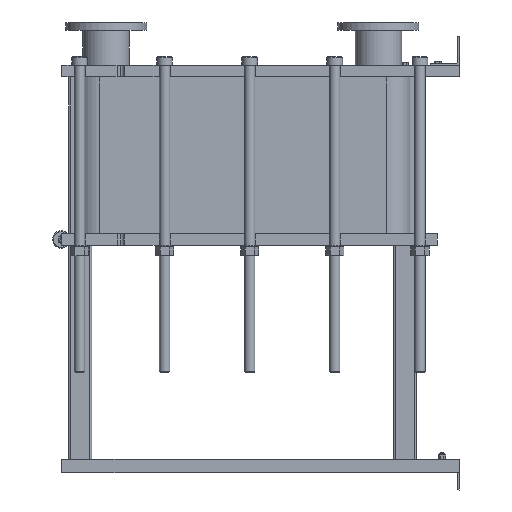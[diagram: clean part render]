
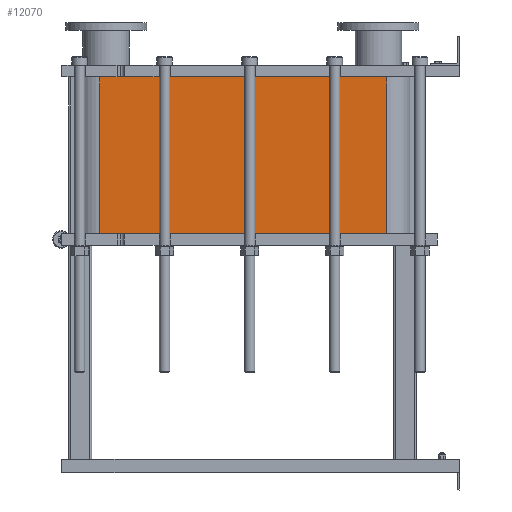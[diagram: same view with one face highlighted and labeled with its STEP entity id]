
A CAD part, left-side view. The second image highlights one B-rep face of the part: STEP entity #12070.
In plain terms, the highlighted planar face has unit normal (-1, 0, 0).
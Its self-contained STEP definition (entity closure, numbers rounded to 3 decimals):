
#1064=LINE('',#21140,#2164);
#1065=LINE('',#21144,#2165);
#1066=LINE('',#21146,#2166);
#1067=LINE('',#21147,#2167);
#2164=VECTOR('',#15790,10.);
#2165=VECTOR('',#15795,10.);
#2166=VECTOR('',#15796,10.);
#2167=VECTOR('',#15797,10.);
#3304=FACE_OUTER_BOUND('',#4091,.T.);
#4091=EDGE_LOOP('',(#9793,#9794,#9795,#9796));
#5677=VERTEX_POINT('',#21137);
#5678=VERTEX_POINT('',#21139);
#5679=VERTEX_POINT('',#21143);
#5680=VERTEX_POINT('',#21145);
#7118=EDGE_CURVE('',#5678,#5677,#1064,.T.);
#7120=EDGE_CURVE('',#5677,#5679,#1065,.T.);
#7121=EDGE_CURVE('',#5680,#5679,#1066,.T.);
#7122=EDGE_CURVE('',#5680,#5678,#1067,.T.);
#9793=ORIENTED_EDGE('',*,*,#7120,.T.);
#9794=ORIENTED_EDGE('',*,*,#7121,.F.);
#9795=ORIENTED_EDGE('',*,*,#7122,.T.);
#9796=ORIENTED_EDGE('',*,*,#7118,.T.);
#11441=PLANE('',#13191);
#12070=ADVANCED_FACE('',(#3304),#11441,.T.);
#13191=AXIS2_PLACEMENT_3D('',#21142,#15793,#15794);
#15790=DIRECTION('',(0.,0.,-1.));
#15793=DIRECTION('center_axis',(-1.,0.,0.));
#15794=DIRECTION('ref_axis',(0.,1.,0.));
#15795=DIRECTION('',(0.,-1.,0.));
#15796=DIRECTION('',(0.,0.,-1.));
#15797=DIRECTION('',(0.,1.,0.));
#21137=CARTESIAN_POINT('',(-248.152,1243.818,-541.65));
#21139=CARTESIAN_POINT('',(-248.152,1243.818,0.));
#21140=CARTESIAN_POINT('',(-248.152,1243.818,0.));
#21142=CARTESIAN_POINT('Origin',(-248.152,251.818,0.));
#21143=CARTESIAN_POINT('',(-248.152,251.818,-541.65));
#21144=CARTESIAN_POINT('',(-248.152,499.818,-541.65));
#21145=CARTESIAN_POINT('',(-248.152,251.818,0.));
#21146=CARTESIAN_POINT('',(-248.152,251.818,0.));
#21147=CARTESIAN_POINT('',(-248.152,251.818,0.));
